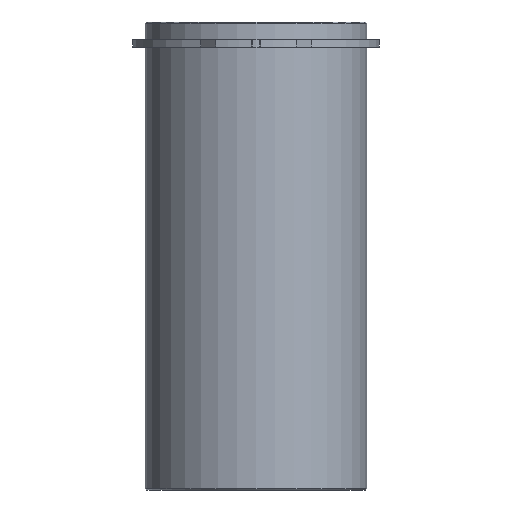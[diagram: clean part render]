
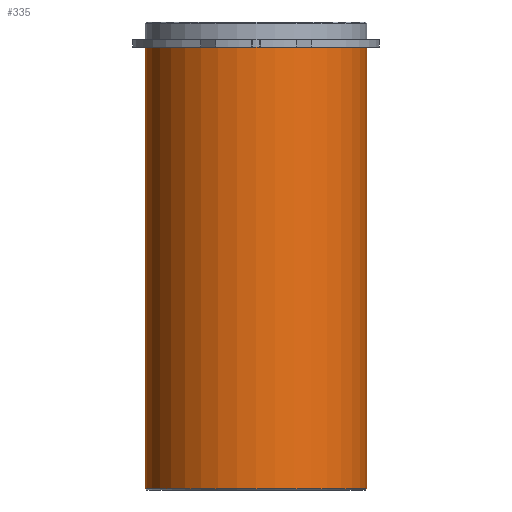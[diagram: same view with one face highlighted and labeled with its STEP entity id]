
A CAD part, front view. The second image highlights one B-rep face of the part: STEP entity #335.
In plain terms, the highlighted cylindrical face has radius 29.625 mm (diameter 59.25 mm), a partial arc.
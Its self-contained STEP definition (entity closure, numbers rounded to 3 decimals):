
#294=CARTESIAN_POINT('',(0.0,0.,-59.0));
#295=DIRECTION('',(0.0,0.,1.0));
#296=DIRECTION('',(1.0,0.0,0.0));
#297=AXIS2_PLACEMENT_3D('',#294,#295,#296);
#298=CYLINDRICAL_SURFACE('',#297,29.625);
#299=CARTESIAN_POINT('',(29.625,0.0,0.0));
#300=VERTEX_POINT('',#299);
#301=CARTESIAN_POINT('',(29.625,0.,-118.0));
#302=VERTEX_POINT('',#301);
#303=CARTESIAN_POINT('',(29.625,0.0,0.0));
#304=DIRECTION('',(0.0,0.0,-1.0));
#305=VECTOR('',#304,118.0);
#306=LINE('',#303,#305);
#307=EDGE_CURVE('',#300,#302,#306,.T.);
#308=ORIENTED_EDGE('',*,*,#307,.F.);
#309=CARTESIAN_POINT('',(-29.625,0.,0.0));
#310=VERTEX_POINT('',#309);
#311=CARTESIAN_POINT('',(0.0,0.0,0.0));
#312=DIRECTION('',(0.0,0.0,1.0));
#313=DIRECTION('',(1.0,0.0,0.0));
#314=AXIS2_PLACEMENT_3D('',#311,#312,#313);
#315=CIRCLE('',#314,29.625);
#316=EDGE_CURVE('',#310,#300,#315,.T.);
#317=ORIENTED_EDGE('',*,*,#316,.F.);
#318=CARTESIAN_POINT('',(-29.625,0.,-118.0));
#319=VERTEX_POINT('',#318);
#320=CARTESIAN_POINT('',(-29.625,0.,0.0));
#321=DIRECTION('',(0.0,0.0,-1.0));
#322=VECTOR('',#321,118.0);
#323=LINE('',#320,#322);
#324=EDGE_CURVE('',#310,#319,#323,.T.);
#325=ORIENTED_EDGE('',*,*,#324,.T.);
#326=CARTESIAN_POINT('',(0.0,0.,-118.0));
#327=DIRECTION('',(0.0,0.0,1.0));
#328=DIRECTION('',(1.0,0.0,0.0));
#329=AXIS2_PLACEMENT_3D('',#326,#327,#328);
#330=CIRCLE('',#329,29.625);
#331=EDGE_CURVE('',#319,#302,#330,.T.);
#332=ORIENTED_EDGE('',*,*,#331,.T.);
#333=EDGE_LOOP('',(#308,#317,#325,#332));
#334=FACE_OUTER_BOUND('',#333,.T.);
#335=ADVANCED_FACE('',(#334),#298,.T.);
